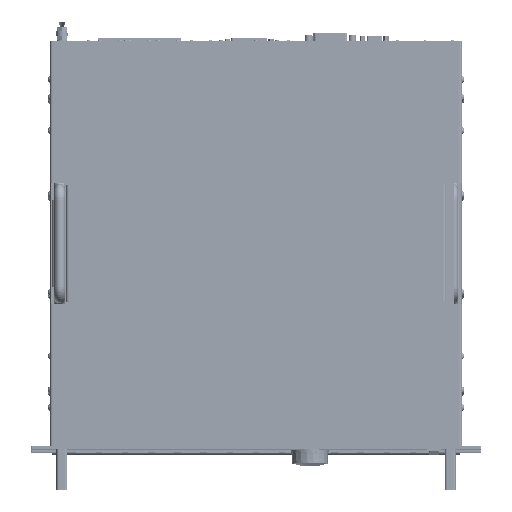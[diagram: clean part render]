
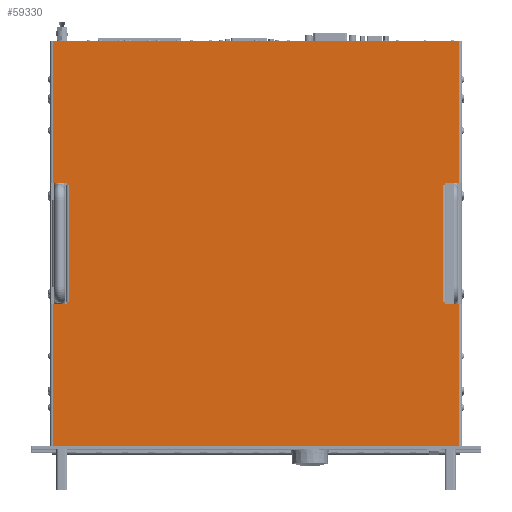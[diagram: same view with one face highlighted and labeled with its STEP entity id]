
A CAD part, top view. The second image highlights one B-rep face of the part: STEP entity #59330.
In plain terms, the highlighted planar face has unit normal (0, 0, 1).
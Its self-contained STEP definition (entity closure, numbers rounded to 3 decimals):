
#59330=ADVANCED_FACE('',(#133008),#133009,.F.);
#133008=FACE_OUTER_BOUND('',#251890,.T.);
#133009=PLANE('',#251891);
#251890=EDGE_LOOP('',(#423504,#423505,#423506,#423507,#423508,#423509,#423510,#423511,#423512,#423513,#423514,#423515,#423516,#423517,#423518,#423519,#423520,#423521,#423522,#423523));
#251891=AXIS2_PLACEMENT_3D('',#423524,#423525,#423526);
#423504=ORIENTED_EDGE('',*,*,#598951,.T.);
#423505=ORIENTED_EDGE('',*,*,#598971,.F.);
#423506=ORIENTED_EDGE('',*,*,#598972,.F.);
#423507=ORIENTED_EDGE('',*,*,#598615,.F.);
#423508=ORIENTED_EDGE('',*,*,#598937,.F.);
#423509=ORIENTED_EDGE('',*,*,#598600,.F.);
#423510=ORIENTED_EDGE('',*,*,#598926,.F.);
#423511=ORIENTED_EDGE('',*,*,#598973,.F.);
#423512=ORIENTED_EDGE('',*,*,#598969,.T.);
#423513=ORIENTED_EDGE('',*,*,#598964,.F.);
#423514=ORIENTED_EDGE('',*,*,#598961,.T.);
#423515=ORIENTED_EDGE('',*,*,#598974,.F.);
#423516=ORIENTED_EDGE('',*,*,#598902,.F.);
#423517=ORIENTED_EDGE('',*,*,#598590,.F.);
#423518=ORIENTED_EDGE('',*,*,#598891,.F.);
#423519=ORIENTED_EDGE('',*,*,#598610,.F.);
#423520=ORIENTED_EDGE('',*,*,#598975,.F.);
#423521=ORIENTED_EDGE('',*,*,#598976,.F.);
#423522=ORIENTED_EDGE('',*,*,#598948,.T.);
#423523=ORIENTED_EDGE('',*,*,#598956,.T.);
#423524=CARTESIAN_POINT('',(241.3,405.515,992.406));
#423525=DIRECTION('',(0.,0.,-1.0));
#423526=DIRECTION('',(1.0,0.,0.));
#598590=EDGE_CURVE('',#719879,#719881,#719882,.T.);
#598600=EDGE_CURVE('',#719897,#719899,#719900,.T.);
#598610=EDGE_CURVE('',#719915,#719917,#719918,.T.);
#598615=EDGE_CURVE('',#719924,#719926,#719927,.T.);
#598891=EDGE_CURVE('',#719917,#719879,#720357,.T.);
#598902=EDGE_CURVE('',#719881,#720372,#720373,.T.);
#598926=EDGE_CURVE('',#720405,#719897,#720407,.T.);
#598937=EDGE_CURVE('',#719899,#719924,#720422,.T.);
#598948=EDGE_CURVE('',#720433,#720436,#720438,.T.);
#598951=EDGE_CURVE('',#720443,#720440,#720444,.T.);
#598956=EDGE_CURVE('',#720436,#720443,#720449,.T.);
#598961=EDGE_CURVE('',#720455,#720453,#720456,.T.);
#598964=EDGE_CURVE('',#720455,#720459,#720460,.T.);
#598969=EDGE_CURVE('',#720465,#720459,#720467,.T.);
#598971=EDGE_CURVE('',#720469,#720440,#720470,.T.);
#598972=EDGE_CURVE('',#719926,#720469,#720471,.T.);
#598973=EDGE_CURVE('',#720465,#720405,#720472,.T.);
#598974=EDGE_CURVE('',#720372,#720453,#720473,.T.);
#598975=EDGE_CURVE('',#720474,#719915,#720475,.T.);
#598976=EDGE_CURVE('',#720433,#720474,#720476,.T.);
#719879=VERTEX_POINT('',#894331);
#719881=VERTEX_POINT('',#894333);
#719882=LINE('',#894334,#894335);
#719897=VERTEX_POINT('',#894353);
#719899=VERTEX_POINT('',#894355);
#719900=LINE('',#894356,#894357);
#719915=VERTEX_POINT('',#894375);
#719917=VERTEX_POINT('',#894377);
#719918=LINE('',#894378,#894379);
#719924=VERTEX_POINT('',#894386);
#719926=VERTEX_POINT('',#894388);
#719927=LINE('',#894389,#894390);
#720357=LINE('',#894941,#894942);
#720372=VERTEX_POINT('',#894962);
#720373=LINE('',#894963,#894964);
#720405=VERTEX_POINT('',#895010);
#720407=LINE('',#895013,#895014);
#720422=LINE('',#895034,#895035);
#720433=VERTEX_POINT('',#895050);
#720436=VERTEX_POINT('',#895054);
#720438=LINE('',#895056,#895057);
#720440=VERTEX_POINT('',#895059);
#720443=VERTEX_POINT('',#895063);
#720444=LINE('',#895064,#895065);
#720449=LINE('',#895070,#895071);
#720453=VERTEX_POINT('',#895076);
#720455=VERTEX_POINT('',#895079);
#720456=LINE('',#895080,#895081);
#720459=VERTEX_POINT('',#895084);
#720460=LINE('',#895085,#895086);
#720465=VERTEX_POINT('',#895091);
#720467=LINE('',#895094,#895095);
#720469=VERTEX_POINT('',#895097);
#720470=LINE('',#895098,#895099);
#720471=LINE('',#895100,#895101);
#720472=LINE('',#895102,#895103);
#720473=LINE('',#895104,#895105);
#720474=VERTEX_POINT('',#895106);
#720475=LINE('',#895107,#895108);
#720476=LINE('',#895109,#895110);
#894331=CARTESIAN_POINT('',(23.623,188.89,992.406));
#894333=CARTESIAN_POINT('',(23.623,340.89,992.406));
#894334=CARTESIAN_POINT('',(23.623,335.203,992.406));
#894335=VECTOR('',#1047083,1.0);
#894353=CARTESIAN_POINT('',(23.623,470.14,992.406));
#894355=CARTESIAN_POINT('',(23.623,622.14,992.406));
#894356=CARTESIAN_POINT('',(23.623,475.828,992.406));
#894357=VECTOR('',#1047099,1.0);
#894375=CARTESIAN_POINT('',(458.977,340.89,992.406));
#894377=CARTESIAN_POINT('',(458.977,188.89,992.406));
#894378=CARTESIAN_POINT('',(458.977,335.203,992.406));
#894379=VECTOR('',#1047115,1.0);
#894386=CARTESIAN_POINT('',(458.977,622.14,992.406));
#894388=CARTESIAN_POINT('',(458.977,470.14,992.406));
#894389=CARTESIAN_POINT('',(458.977,475.828,992.406));
#894390=VECTOR('',#1047123,1.0);
#894941=CARTESIAN_POINT('',(461.727,188.89,992.406));
#894942=VECTOR('',#1047509,1.0);
#894962=CARTESIAN_POINT('',(38.873,340.89,992.406));
#894963=CARTESIAN_POINT('',(20.873,340.89,992.406));
#894964=VECTOR('',#1047527,1.0);
#895010=CARTESIAN_POINT('',(38.873,470.14,992.406));
#895013=CARTESIAN_POINT('',(38.873,470.14,992.406));
#895014=VECTOR('',#1047555,1.0);
#895034=CARTESIAN_POINT('',(20.873,622.14,992.406));
#895035=VECTOR('',#1047573,1.0);
#895050=CARTESIAN_POINT('',(443.727,342.89,992.406));
#895054=CARTESIAN_POINT('',(441.977,342.89,992.406));
#895056=CARTESIAN_POINT('',(342.593,342.89,992.406));
#895057=VECTOR('',#1047585,1.0);
#895059=CARTESIAN_POINT('',(443.727,468.14,992.406));
#895063=CARTESIAN_POINT('',(441.977,468.14,992.406));
#895064=CARTESIAN_POINT('',(342.593,468.14,992.406));
#895065=VECTOR('',#1047587,1.0);
#895070=CARTESIAN_POINT('',(441.977,405.515,992.406));
#895071=VECTOR('',#1047597,1.0);
#895076=CARTESIAN_POINT('',(38.873,342.89,992.406));
#895079=CARTESIAN_POINT('',(40.623,342.89,992.406));
#895080=CARTESIAN_POINT('',(140.007,342.89,992.406));
#895081=VECTOR('',#1047600,1.0);
#895084=CARTESIAN_POINT('',(40.623,468.14,992.406));
#895085=CARTESIAN_POINT('',(40.623,405.515,992.406));
#895086=VECTOR('',#1047604,1.0);
#895091=CARTESIAN_POINT('',(38.873,468.14,992.406));
#895094=CARTESIAN_POINT('',(140.007,468.14,992.406));
#895095=VECTOR('',#1047612,1.0);
#895097=CARTESIAN_POINT('',(443.727,470.14,992.406));
#895098=CARTESIAN_POINT('',(443.727,470.14,992.406));
#895099=VECTOR('',#1047613,1.0);
#895100=CARTESIAN_POINT('',(461.727,470.14,992.406));
#895101=VECTOR('',#1047614,1.0);
#895102=CARTESIAN_POINT('',(38.873,468.14,992.406));
#895103=VECTOR('',#1047615,1.0);
#895104=CARTESIAN_POINT('',(38.873,340.89,992.406));
#895105=VECTOR('',#1047616,1.0);
#895106=CARTESIAN_POINT('',(443.727,340.89,992.406));
#895107=CARTESIAN_POINT('',(443.727,340.89,992.406));
#895108=VECTOR('',#1047617,1.0);
#895109=CARTESIAN_POINT('',(443.727,342.89,992.406));
#895110=VECTOR('',#1047618,1.0);
#1047083=DIRECTION('',(0.0,1.0,0.0));
#1047099=DIRECTION('',(0.0,1.0,0.0));
#1047115=DIRECTION('',(0.0,-1.0,0.0));
#1047123=DIRECTION('',(0.0,-1.0,0.0));
#1047509=DIRECTION('',(-1.0,0.0,0.0));
#1047527=DIRECTION('',(1.0,0.0,0.0));
#1047555=DIRECTION('',(-1.0,0.0,0.0));
#1047573=DIRECTION('',(1.0,0.0,0.0));
#1047585=DIRECTION('',(-1.0,0.0,0.0));
#1047587=DIRECTION('',(1.0,0.0,0.0));
#1047597=DIRECTION('',(0.0,1.0,0.0));
#1047600=DIRECTION('',(-1.0,0.0,0.0));
#1047604=DIRECTION('',(0.0,1.0,0.0));
#1047612=DIRECTION('',(1.0,0.0,0.0));
#1047613=DIRECTION('',(0.0,-1.0,0.0));
#1047614=DIRECTION('',(-1.0,0.0,0.0));
#1047615=DIRECTION('',(0.0,1.0,0.0));
#1047616=DIRECTION('',(0.0,1.0,0.0));
#1047617=DIRECTION('',(1.0,0.0,0.0));
#1047618=DIRECTION('',(0.0,-1.0,0.0));
